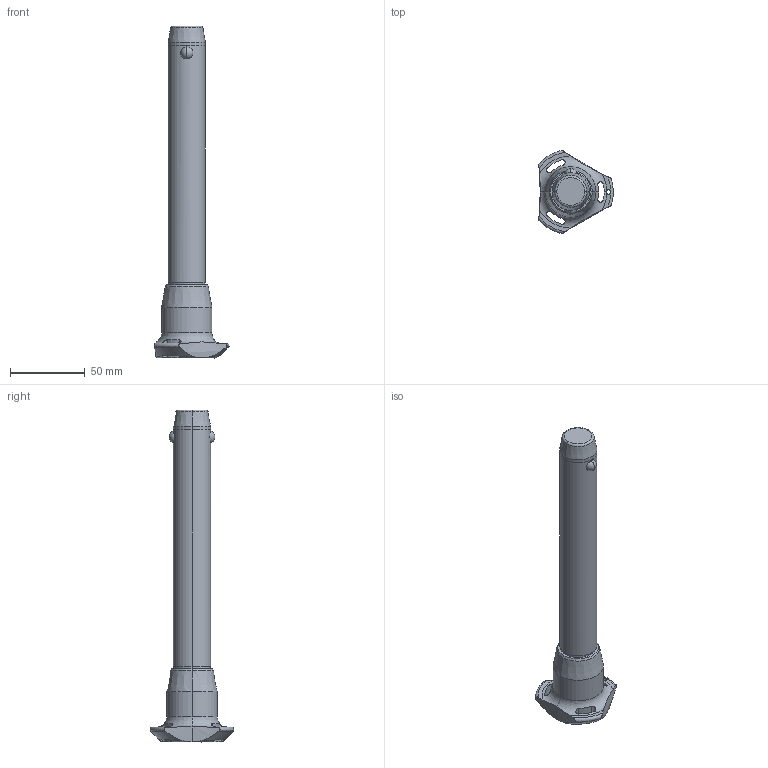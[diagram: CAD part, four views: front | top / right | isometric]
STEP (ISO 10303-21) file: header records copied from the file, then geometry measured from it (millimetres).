
FILE_DESCRIPTION (( 'STEP AP203' ), '1' );
FILE_NAME ('QR1716.M25-150-T.step', '2025-11-13T10:48:03', ( '' ), ( '' ), 'SwSTEP 2.0', 'SolidWorks 2019', '' );
FILE_SCHEMA (( 'CONFIG_CONTROL_DESIGN' ));
Length unit declared in the file: millimetre
Products named in the file (1): QR1716.M25-150-T
Bounding box: 50.04 x 56.02 x 222.7 mm (x, y, z)
Volume: 132042.4 mm3; surface area: 23243.1 mm2
Topology: 1 solids, 1 shells, 68 faces, 182 edges, 115 vertices
Faces by surface type: cylinder 32, cone 14, torus 11, sphere 6, plane 5
Entity records: 2936 total; most frequent: CARTESIAN_POINT 1190, ORIENTED_EDGE 364, DIRECTION 345, EDGE_CURVE 182, AXIS2_PLACEMENT_3D 154, VERTEX_POINT 115, CIRCLE 85, EDGE_LOOP 75
